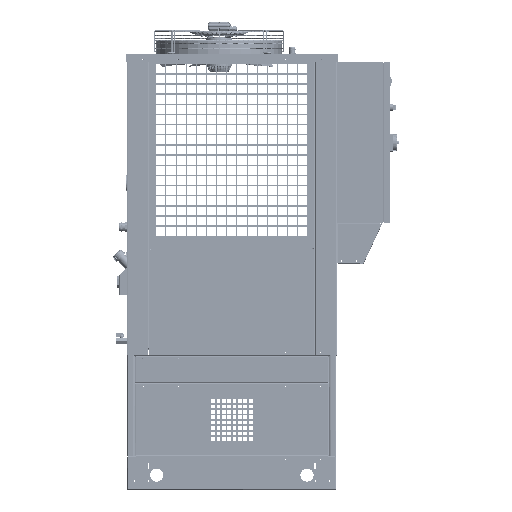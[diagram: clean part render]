
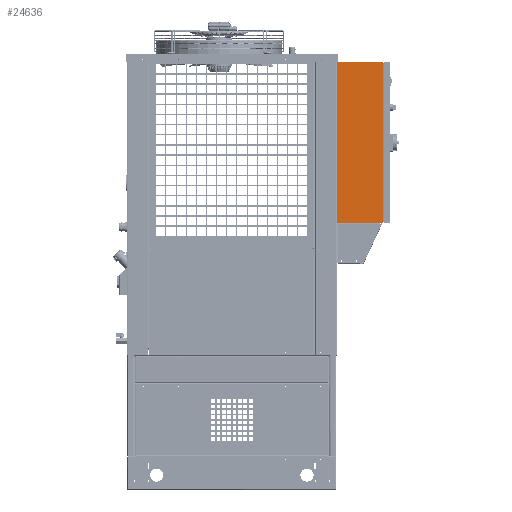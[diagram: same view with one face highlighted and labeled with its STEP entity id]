
A CAD part, top view. The second image highlights one B-rep face of the part: STEP entity #24636.
In plain terms, the highlighted planar face has unit normal (0, 0, 1) as drawn and (-1, 0, 0) by its records, which use the part's own axes.
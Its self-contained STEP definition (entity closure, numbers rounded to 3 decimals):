
#13979 = DIRECTION ( 'NONE',  ( 0., -1., 0. ) ) ;
#19151 = LINE ( 'NONE', #91564, #276047 ) ;
#24636 = ADVANCED_FACE ( 'NONE', ( #600883 ), #39617, .T. ) ;
#29922 = DIRECTION ( 'NONE',  ( 0., 0., 1. ) ) ;
#37391 = VERTEX_POINT ( 'NONE', #83789 ) ;
#39617 = PLANE ( 'NONE',  #496465 ) ;
#52922 = EDGE_CURVE ( 'NONE', #493633, #37391, #573466, .T. ) ;
#53058 = ORIENTED_EDGE ( 'NONE', *, *, #256240, .F. ) ;
#76913 = EDGE_LOOP ( 'NONE', ( #53058, #92175, #186097, #506216 ) ) ;
#83789 = CARTESIAN_POINT ( 'NONE',  ( -200., 300., -28.805 ) ) ;
#88172 = DIRECTION ( 'NONE',  ( -1., 0., 0. ) ) ;
#91564 = CARTESIAN_POINT ( 'NONE',  ( -200., 316.971, -28.805 ) ) ;
#92175 = ORIENTED_EDGE ( 'NONE', *, *, #52922, .F. ) ;
#144011 = EDGE_CURVE ( 'NONE', #493633, #479464, #578030, .T. ) ;
#183279 = CARTESIAN_POINT ( 'NONE',  ( -200., 300., -200. ) ) ;
#185285 = CARTESIAN_POINT ( 'NONE',  ( -200., 300., -200. ) ) ;
#186097 = ORIENTED_EDGE ( 'NONE', *, *, #144011, .T. ) ;
#191134 = LINE ( 'NONE', #319286, #561085 ) ;
#193733 = CARTESIAN_POINT ( 'NONE',  ( -200., -300., -28.805 ) ) ;
#216172 = CARTESIAN_POINT ( 'NONE',  ( -200., -300., -200. ) ) ;
#256240 = EDGE_CURVE ( 'NONE', #37391, #340309, #19151, .T. ) ;
#276047 = VECTOR ( 'NONE', #475714, 1000. ) ;
#314552 = CARTESIAN_POINT ( 'NONE',  ( -200., 300., -200. ) ) ;
#319286 = CARTESIAN_POINT ( 'NONE',  ( -200., -300., -200. ) ) ;
#321275 = VECTOR ( 'NONE', #13979, 1000. ) ;
#340309 = VERTEX_POINT ( 'NONE', #193733 ) ;
#351883 = CARTESIAN_POINT ( 'NONE',  ( -200., 300., -200. ) ) ;
#425939 = DIRECTION ( 'NONE',  ( 0., -1., 0. ) ) ;
#429992 = VECTOR ( 'NONE', #474408, 1000. ) ;
#474408 = DIRECTION ( 'NONE',  ( 0., 0., 1. ) ) ;
#475714 = DIRECTION ( 'NONE',  ( 0., -1., 0. ) ) ;
#479464 = VERTEX_POINT ( 'NONE', #216172 ) ;
#493633 = VERTEX_POINT ( 'NONE', #314552 ) ;
#496465 = AXIS2_PLACEMENT_3D ( 'NONE', #183279, #88172, #425939 ) ;
#506216 = ORIENTED_EDGE ( 'NONE', *, *, #598591, .T. ) ;
#561085 = VECTOR ( 'NONE', #29922, 1000. ) ;
#573466 = LINE ( 'NONE', #185285, #429992 ) ;
#578030 = LINE ( 'NONE', #351883, #321275 ) ;
#598591 = EDGE_CURVE ( 'NONE', #479464, #340309, #191134, .T. ) ;
#600883 = FACE_OUTER_BOUND ( 'NONE', #76913, .T. ) ;
